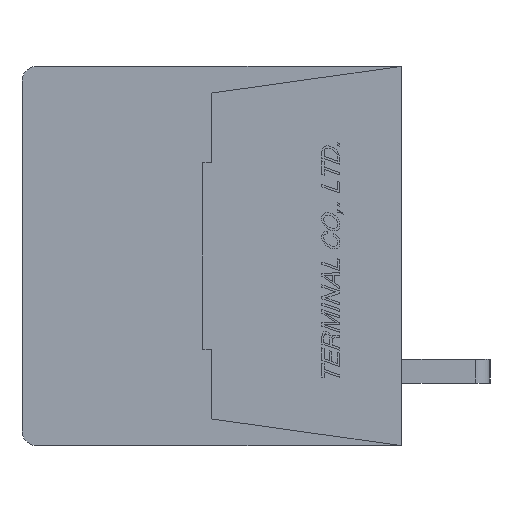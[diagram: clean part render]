
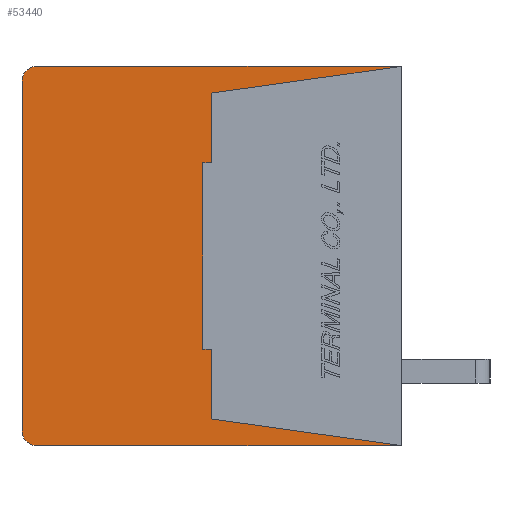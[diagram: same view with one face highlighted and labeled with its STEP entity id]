
A CAD part, left-side view. The second image highlights one B-rep face of the part: STEP entity #53440.
In plain terms, the highlighted planar face has unit normal (-1, 0, 0).
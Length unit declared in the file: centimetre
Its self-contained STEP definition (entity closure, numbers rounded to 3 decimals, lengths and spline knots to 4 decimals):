
#2712=CIRCLE('',#91649,0.05);
#2713=CIRCLE('',#91652,0.05);
#4630=VERTEX_POINT('',#73975);
#4631=VERTEX_POINT('',#73977);
#4632=VERTEX_POINT('',#73981);
#4633=VERTEX_POINT('',#73985);
#4634=VERTEX_POINT('',#73989);
#4635=VERTEX_POINT('',#73993);
#4636=VERTEX_POINT('',#73997);
#4637=VERTEX_POINT('',#73999);
#4638=VERTEX_POINT('',#74001);
#4639=VERTEX_POINT('',#74003);
#4640=VERTEX_POINT('',#74005);
#4641=VERTEX_POINT('',#74007);
#10280=VECTOR('',#61978,1.);
#10284=VECTOR('',#61987,1.);
#10287=VECTOR('',#61995,1.);
#10288=VECTOR('',#61997,1.);
#10289=VECTOR('',#61998,1.);
#10290=VECTOR('',#61999,1.);
#10291=VECTOR('',#62000,1.);
#10292=VECTOR('',#62001,1.);
#10293=VECTOR('',#62002,1.);
#10294=VECTOR('',#62003,1.);
#16564=LINE('',#73976,#10280);
#16568=LINE('',#73986,#10284);
#16571=LINE('',#73994,#10287);
#16572=LINE('',#73996,#10288);
#16573=LINE('',#73998,#10289);
#16574=LINE('',#74000,#10290);
#16575=LINE('',#74002,#10291);
#16576=LINE('',#74004,#10292);
#16577=LINE('',#74006,#10293);
#16578=LINE('',#74008,#10294);
#23540=EDGE_CURVE('',#4631,#4630,#16564,.T.);
#23543=EDGE_CURVE('',#4632,#4630,#2712,.T.);
#23545=EDGE_CURVE('',#4632,#4633,#16568,.T.);
#23547=EDGE_CURVE('',#4634,#4633,#2713,.T.);
#23549=EDGE_CURVE('',#4634,#4635,#16571,.T.);
#23550=EDGE_CURVE('',#4636,#4631,#16572,.T.);
#23551=EDGE_CURVE('',#4635,#4637,#16573,.T.);
#23552=EDGE_CURVE('',#4637,#4638,#16574,.T.);
#23553=EDGE_CURVE('',#4638,#4639,#16575,.T.);
#23554=EDGE_CURVE('',#4639,#4640,#16576,.T.);
#23555=EDGE_CURVE('',#4640,#4641,#16577,.T.);
#23556=EDGE_CURVE('',#4641,#4636,#16578,.T.);
#34253=ORIENTED_EDGE('',*,*,#23550,.T.);
#34254=ORIENTED_EDGE('',*,*,#23540,.T.);
#34255=ORIENTED_EDGE('',*,*,#23543,.F.);
#34256=ORIENTED_EDGE('',*,*,#23545,.T.);
#34257=ORIENTED_EDGE('',*,*,#23547,.F.);
#34258=ORIENTED_EDGE('',*,*,#23549,.T.);
#34259=ORIENTED_EDGE('',*,*,#23551,.T.);
#34260=ORIENTED_EDGE('',*,*,#23552,.T.);
#34261=ORIENTED_EDGE('',*,*,#23553,.T.);
#34262=ORIENTED_EDGE('',*,*,#23554,.T.);
#34263=ORIENTED_EDGE('',*,*,#23555,.T.);
#34264=ORIENTED_EDGE('',*,*,#23556,.T.);
#46506=EDGE_LOOP('',(#34253,#34254,#34255,#34256,#34257,#34258,#34259,#34260,
#34261,#34262,#34263,#34264));
#50046=FACE_BOUND('',#46506,.T.);
#53440=ADVANCED_FACE('',(#50046),#56402,.F.);
#56402=PLANE('',#91654);
#61978=DIRECTION('',(0.,1.,0.));
#61983=DIRECTION('',(1.,0.,0.));
#61984=DIRECTION('',(0.,0.,-0.05));
#61987=DIRECTION('',(0.,0.,-1.));
#61991=DIRECTION('',(1.,0.,0.));
#61992=DIRECTION('',(0.,0.,-0.05));
#61995=DIRECTION('',(0.,-1.,0.));
#61996=DIRECTION('',(1.,0.,0.));
#61997=DIRECTION('',(0.,-0.99,0.139));
#61998=DIRECTION('',(0.,0.99,0.139));
#61999=DIRECTION('',(0.,0.,1.));
#62000=DIRECTION('',(0.,1.,0.));
#62001=DIRECTION('',(0.,0.,1.));
#62002=DIRECTION('',(0.,-1.,0.));
#62003=DIRECTION('',(0.,0.,1.));
#73975=CARTESIAN_POINT('',(-1.,1.23,0.64));
#73976=CARTESIAN_POINT('',(-1.,0.,0.64));
#73977=CARTESIAN_POINT('',(-1.,0.,0.64));
#73981=CARTESIAN_POINT('',(-1.,1.28,0.59));
#73982=CARTESIAN_POINT('',(-1.,1.23,0.59));
#73985=CARTESIAN_POINT('',(-1.,1.28,-0.59));
#73986=CARTESIAN_POINT('',(-1.,1.28,0.59));
#73989=CARTESIAN_POINT('',(-1.,1.23,-0.64));
#73990=CARTESIAN_POINT('',(-1.,1.23,-0.59));
#73993=CARTESIAN_POINT('',(-1.,0.,-0.64));
#73994=CARTESIAN_POINT('',(-1.,1.23,-0.64));
#73995=CARTESIAN_POINT('',(-1.,0.6345,0.));
#73996=CARTESIAN_POINT('',(-1.,0.64,0.55));
#73997=CARTESIAN_POINT('',(-1.,0.64,0.55));
#73998=CARTESIAN_POINT('',(-1.,0.,-0.64));
#73999=CARTESIAN_POINT('',(-1.,0.64,-0.55));
#74000=CARTESIAN_POINT('',(-1.,0.64,-0.55));
#74001=CARTESIAN_POINT('',(-1.,0.64,-0.315));
#74002=CARTESIAN_POINT('',(-1.,0.64,-0.315));
#74003=CARTESIAN_POINT('',(-1.,0.67,-0.315));
#74004=CARTESIAN_POINT('',(-1.,0.67,-0.315));
#74005=CARTESIAN_POINT('',(-1.,0.67,0.315));
#74006=CARTESIAN_POINT('',(-1.,0.67,0.315));
#74007=CARTESIAN_POINT('',(-1.,0.64,0.315));
#74008=CARTESIAN_POINT('',(-1.,0.64,0.315));
#91649=AXIS2_PLACEMENT_3D('',#73982,#61983,#61984);
#91652=AXIS2_PLACEMENT_3D('',#73990,#61991,#61992);
#91654=AXIS2_PLACEMENT_3D('',#73995,#61996,$);
